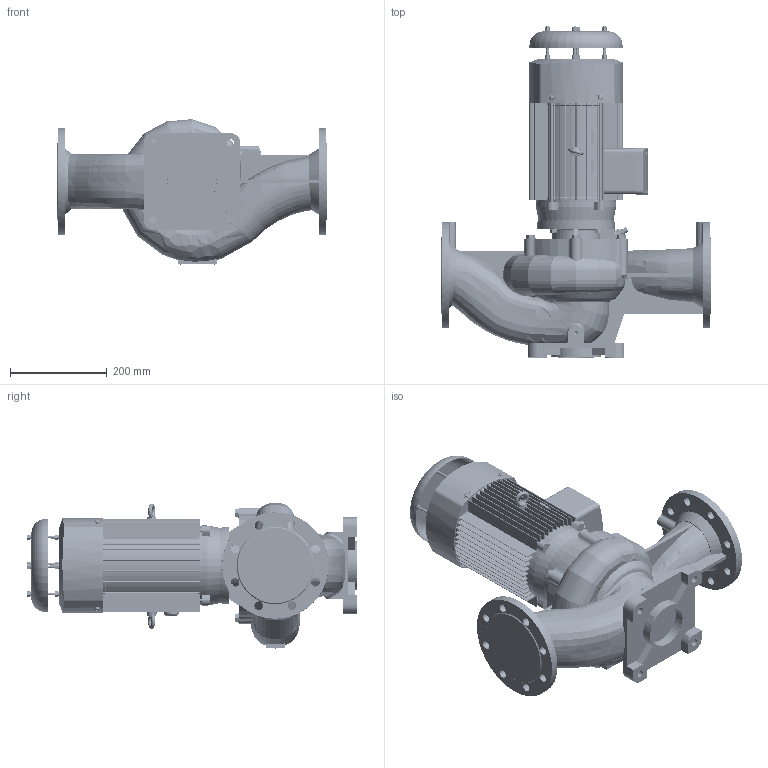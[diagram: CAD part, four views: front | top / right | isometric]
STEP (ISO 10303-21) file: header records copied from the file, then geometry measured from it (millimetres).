
FILE_DESCRIPTION (( 'STEP AP214' ), '1' );
FILE_NAME ('LLT100-5-2.2.STEP', '2020-08-28T01:07:55', ( 'cnp' ), ( '' ), 'SwSTEP 2.0', 'SolidWorks 2018', '' );
FILE_SCHEMA (( 'AUTOMOTIVE_DESIGN' ));
Length unit declared in the file: millimetre
Products named in the file (31): LLT100掙芛; 平垫圈10; LLT100; GB╱T 5783-2016[六角头螺栓 全螺纹M10×35]; GB╱T 5783-2016[六角头螺栓 全螺纹M8×30]; 平垫圈8; YE3-100-IMV18 萇儂 滅迾欶; LLT100-5-2.2; GB╱T 5783-2016[六角头螺栓 全螺纹M10×35]_M10×35; GB╱T 5783-2016[六角头螺栓 全螺纹M8×30]_M8×30
Assembly tree (23 placements, depth 2):
  平垫圈10
  GB╱T 5783-2016[六角头螺栓 全螺纹M10×35]
  GB╱T 5783-2016[六角头螺栓 全螺纹M8×30]
  GB╱T 5783-2016[六角头螺栓 全螺纹M10×35]
  GB╱T 5783-2016[六角头螺栓 全螺纹M8×30]
Bounding box: 560 x 684.96 x 301.5 mm (x, y, z)
Volume: 16261721.1 mm3; surface area: 2144966.8 mm2
Topology: 100 solids, 101 shells, 5905 faces, 15814 edges, 10426 vertices
Faces by surface type: plane 3097, bspline 1127, cylinder 1017, cone 574, torus 80, sphere 10
Full cylindrical faces by diameter (mm): 1.1 x1, 1.3 x1, 2 x7, 3 x1, 3.3 x8, 3.4 x4, 4 x4, 4.2 x3, 4.25 x4, 4.5 x4, 5 x29, 5.196 x4, 5.3 x4, 5.5 x2, 6 x251, 6.4 x16, 6.5 x4, 6.6 x4, 6.75 x6, 6.8 x4, 8 x12, 8.4 x4, 8.5 x7, 9 x9, 9.5 x4, 10 x11, 10.5 x6, 11 x1, 11.8 x2, 12 x28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
Entity records: 309521 total; most frequent: CARTESIAN_POINT 112733, ORIENTED_EDGE 29256, DIRECTION 22931, EDGE_CURVE 14628, VERTEX_POINT 10068, LINE 8273, VECTOR 8273, EDGE_LOOP 7388
